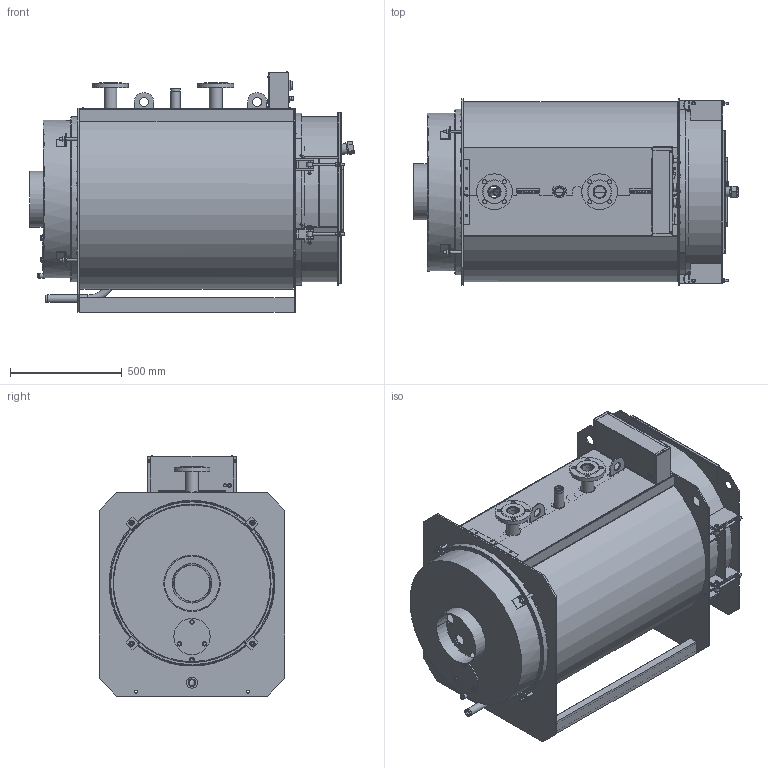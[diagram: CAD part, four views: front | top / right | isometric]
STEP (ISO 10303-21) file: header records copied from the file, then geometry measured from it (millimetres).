
FILE_DESCRIPTION(('STEP AP242'), '1');
FILE_NAME('TITAN Prom 4 (150 êÂò)', '', ('UNSPECIFIED'), ('UNSPECIFIED'), 'ASCON STEP Converter 1.6', 'ASCON Math Kernel', '');
FILE_SCHEMA(('AP242_MANAGED_MODEL_BASED_3D_ENGINEERING_MIM_LF { 1 0 10303 442 1 1 4 }'));
Length unit declared in the file: millimetre
Bounding box: 1450.29 x 830 x 1073.16 mm (x, y, z)
Volume: 83036171.9 mm3; surface area: 14957935.6 mm2
Topology: 34 solids, 34 shells, 3019 faces, 7526 edges, 4807 vertices
Faces by surface type: plane 1885, cylinder 843, cone 183, bspline 64, torus 29, extrusion 9, sphere 6
Full cylindrical faces by diameter (mm): 2 x4, 2.8 x27, 3 x1, 3.2 x4, 3.5 x8, 3.6 x4, 4 x12, 4.1 x2, 4.5 x12, 4.8 x1, 5 x15, 6 x5, 7 x2, 7.6 x1, 8 x3, 9 x2, 9.25 x4, 9.5 x8, 9.728 x1, 10 x30, 10.106 x5, 10.5 x1, 11 x16, 12 x20, 13 x13, 13.5 x4, 14 x8, 14.5 x1, 15 x3, 15.7 x1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
Entity records: 167233 total; most frequent: CARTESIAN_POINT 73121, ORIENTED_EDGE 13946, DIRECTION 13710, EDGE_CURVE 6973, AXIS2_PLACEMENT_3D 4821, VERTEX_POINT 4791, EDGE_LOOP 4146, VECTOR 4068
